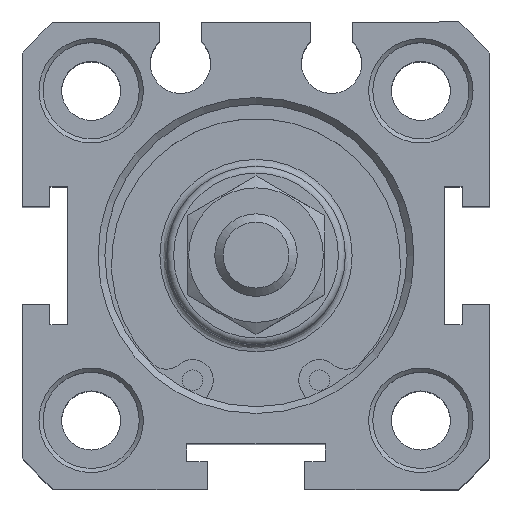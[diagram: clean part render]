
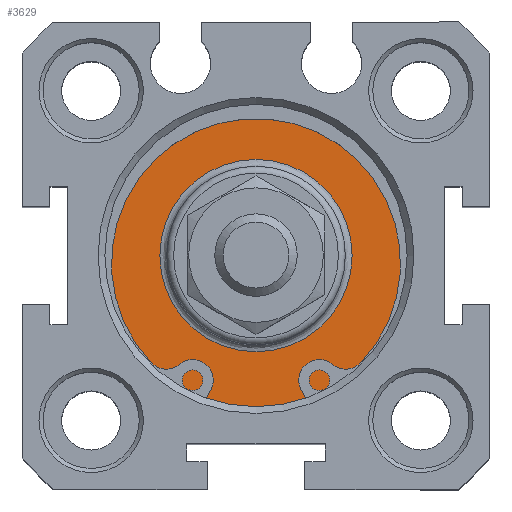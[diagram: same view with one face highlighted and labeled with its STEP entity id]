
A CAD part, top view. The second image highlights one B-rep face of the part: STEP entity #3629.
In plain terms, the highlighted planar face has unit normal (0, 0, 1).
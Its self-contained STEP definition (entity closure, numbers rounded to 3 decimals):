
#3567=CARTESIAN_POINT('',(0.957,6.522,36.8));
#3568=VERTEX_POINT('',#3567);
#3569=CARTESIAN_POINT('',(0.957,-0.478,36.8));
#3570=DIRECTION('',(0.0,0.0,1.0));
#3571=DIRECTION('',(0.0,-1.0,0.0));
#3572=AXIS2_PLACEMENT_3D('',#3569,#3570,#3571);
#3573=CIRCLE('',#3572,7.);
#3574=EDGE_CURVE('',#3568,#3568,#3573,.T.);
#3610=CARTESIAN_POINT('',(0.957,8.272,36.8));
#3611=DIRECTION('',(0.0,0.0,1.0));
#3612=DIRECTION('',(1.0,0.0,0.0));
#3613=AXIS2_PLACEMENT_3D('',#3610,#3611,#3612);
#3614=PLANE('',#3613);
#3615=CARTESIAN_POINT('',(0.957,10.522,36.8));
#3616=VERTEX_POINT('',#3615);
#3617=CARTESIAN_POINT('',(0.957,-0.478,36.8));
#3618=DIRECTION('',(0.0,0.0,1.0));
#3619=DIRECTION('',(0.0,1.0,0.0));
#3620=AXIS2_PLACEMENT_3D('',#3617,#3618,#3619);
#3621=CIRCLE('',#3620,11.);
#3622=EDGE_CURVE('',#3616,#3616,#3621,.T.);
#3623=ORIENTED_EDGE('',*,*,#3622,.T.);
#3624=EDGE_LOOP('',(#3623));
#3625=FACE_OUTER_BOUND('',#3624,.T.);
#3626=ORIENTED_EDGE('',*,*,#3574,.F.);
#3627=EDGE_LOOP('',(#3626));
#3628=FACE_BOUND('',#3627,.T.);
#3629=ADVANCED_FACE('',(#3625,#3628),#3614,.T.);
